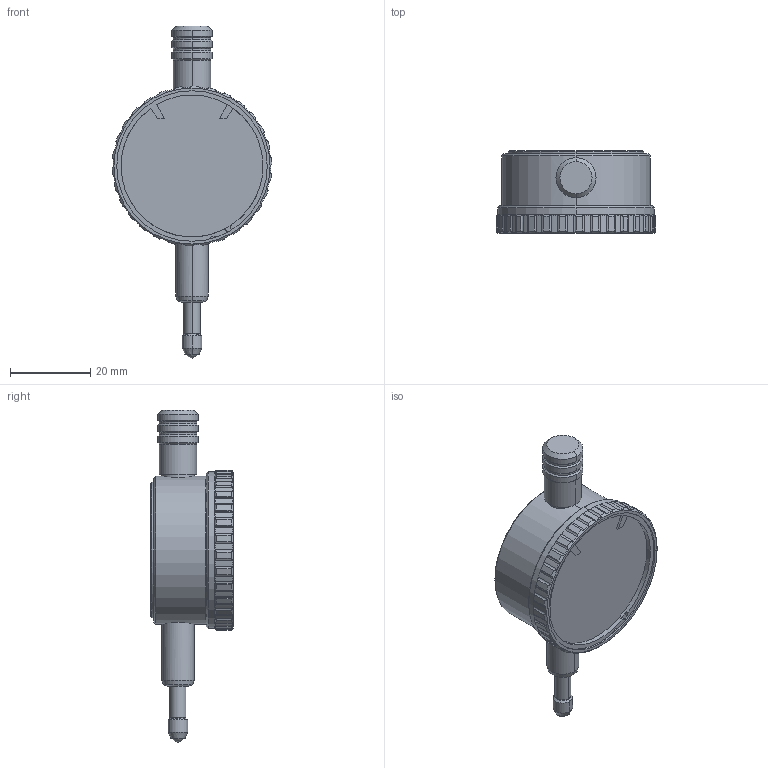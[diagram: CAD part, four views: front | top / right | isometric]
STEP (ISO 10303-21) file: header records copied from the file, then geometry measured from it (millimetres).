
FILE_DESCRIPTION(('STEP AP214'),'1');
FILE_NAME('SI-45.STP','2016-07-21T05:33:11',(' '),(' '),'Spatial InterOp 3D',' ',' ');
FILE_SCHEMA(('automotive_design'));
Length unit declared in the file: millimetre
Products named in the file (1): 1
Bounding box: 39.98 x 20.6 x 82.99 mm (x, y, z)
Volume: 23246.7 mm3; surface area: 6684.5 mm2
Topology: 1 solids, 4 shells, 291 faces, 764 edges, 494 vertices
Faces by surface type: cylinder 208, plane 48, cone 34, sphere 1
Entity records: 13273 total; most frequent: CARTESIAN_POINT 6296, ORIENTED_EDGE 1528, DIRECTION 1366, EDGE_CURVE 764, AXIS2_PLACEMENT_3D 536, VERTEX_POINT 494, EDGE_LOOP 312, LINE 294
